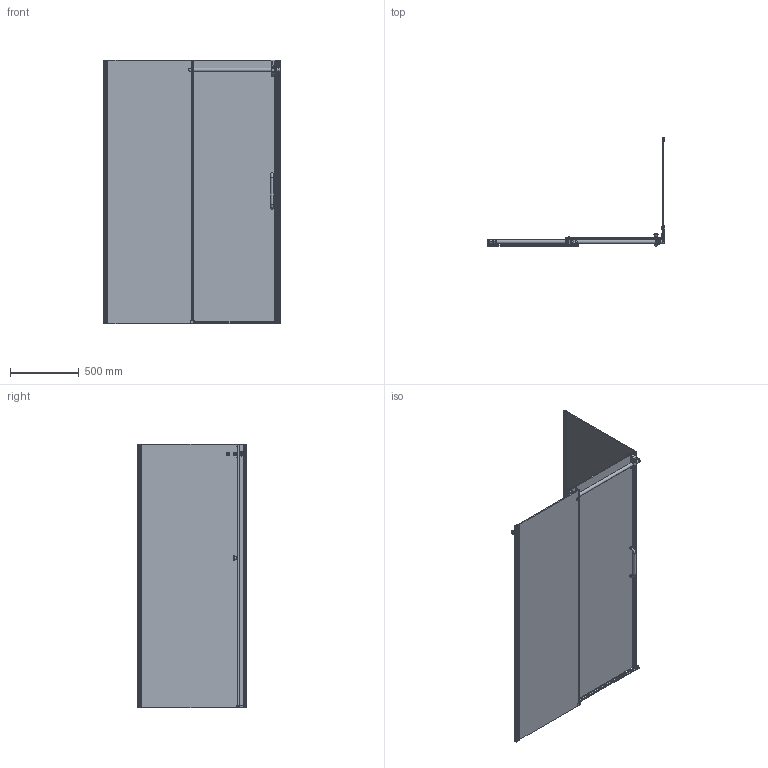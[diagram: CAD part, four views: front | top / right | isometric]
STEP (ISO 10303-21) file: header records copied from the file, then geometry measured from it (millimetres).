
FILE_DESCRIPTION(/* description */ (''),/* implementation_level */ '2;1');
FILE_NAME(/* name */ 'Z:\MANHATTAN ARTWORKS\Manhattan prawidłowy.stp',/* time_stamp */ '2024-04-19T11:15:28+02:00',/* author */ ('user'),/* organization */ (''),/* preprocessor_version */ 'ST-DEVELOPER v17.2',/* originating_system */ 'Autodesk Inventor 2019',/* authorisation */ '');
FILE_SCHEMA (('AUTOMOTIVE_DESIGN { 1 0 10303 214 3 1 1 }'));
Products named in the file (1): Manhattan prawidłowy
Bounding box: 1294.89 x 794.44 x 1920 mm (x, y, z)
Volume: 23331124.7 mm3; surface area: 10723797 mm2
Topology: 125 solids, 127 shells, 2652 faces, 7051 edges, 4697 vertices
Faces by surface type: cylinder 1236, plane 963, bspline 177, torus 133, cone 92, sphere 51
Full cylindrical faces by diameter (mm): 2.5 x3, 3 x1, 3.5 x2, 4 x4, 4.2 x73, 4.3 x15, 5 x228, 5.5 x6, 6 x157, 6.5 x4, 7 x1, 8 x10, 8.4 x2, 9.2 x10, 9.5 x12, 10 x8, 10.3 x2, 10.5 x2, 10.7 x4, 11.5 x6, 11.7 x4, 12 x9, 12.5 x4, 13.6 x4, 14 x4, 15.5 x4, 16 x4, 18 x6, 19 x5, 21 x1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
Entity records: 333419 total; most frequent: CARTESIAN_POINT 267966, ORIENTED_EDGE 14012, DIRECTION 13105, EDGE_CURVE 7007, AXIS2_PLACEMENT_3D 4945, VERTEX_POINT 4697, LINE 3215, VECTOR 3215
